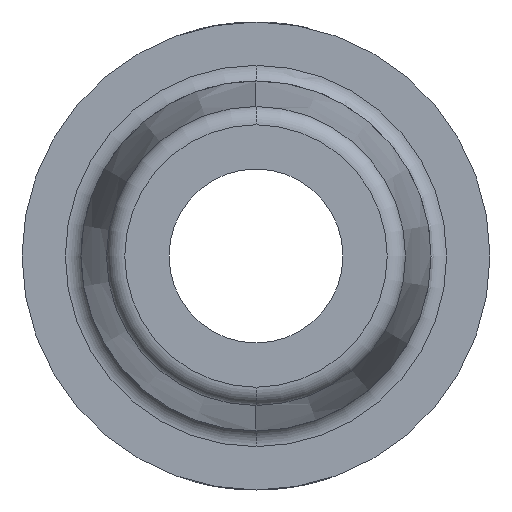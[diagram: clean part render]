
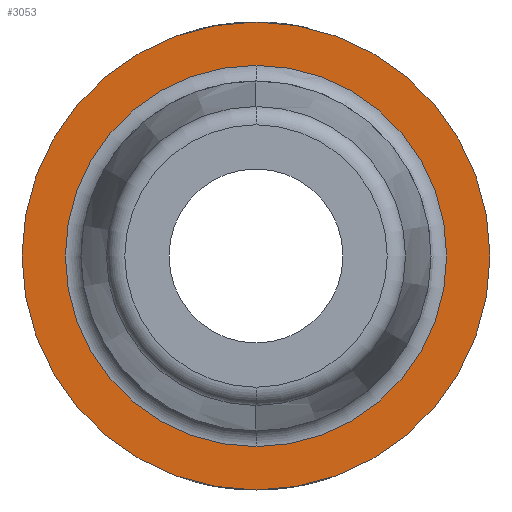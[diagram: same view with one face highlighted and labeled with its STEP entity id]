
A CAD part, left-side view. The second image highlights one B-rep face of the part: STEP entity #3053.
In plain terms, the highlighted planar face has unit normal (-1, 0, 0).
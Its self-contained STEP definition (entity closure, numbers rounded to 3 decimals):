
#61=FACE_BOUND('',#936,.T.);
#73=PLANE('',#3369);
#764=FACE_OUTER_BOUND('',#935,.T.);
#935=EDGE_LOOP('',(#2330,#2331));
#936=EDGE_LOOP('',(#2332,#2333));
#1092=CIRCLE('',#3220,2.587);
#1150=CIRCLE('',#3298,3.175);
#1185=CIRCLE('',#3335,3.175);
#1209=CIRCLE('',#3370,2.587);
#1251=VERTEX_POINT('',#4336);
#1252=VERTEX_POINT('',#4337);
#1357=VERTEX_POINT('',#4758);
#1358=VERTEX_POINT('',#4760);
#1575=EDGE_CURVE('',#1251,#1252,#1092,.T.);
#1687=EDGE_CURVE('',#1358,#1357,#1150,.T.);
#1759=EDGE_CURVE('',#1357,#1358,#1185,.T.);
#1820=EDGE_CURVE('',#1252,#1251,#1209,.T.);
#2330=ORIENTED_EDGE('',*,*,#1687,.T.);
#2331=ORIENTED_EDGE('',*,*,#1759,.T.);
#2332=ORIENTED_EDGE('',*,*,#1820,.T.);
#2333=ORIENTED_EDGE('',*,*,#1575,.T.);
#3053=ADVANCED_FACE('',(#764,#61),#73,.F.);
#3220=AXIS2_PLACEMENT_3D('',#4338,#3518,#3519);
#3298=AXIS2_PLACEMENT_3D('',#4761,#3709,#3710);
#3335=AXIS2_PLACEMENT_3D('',#5031,#3814,#3815);
#3369=AXIS2_PLACEMENT_3D('',#5557,#3894,#3895);
#3370=AXIS2_PLACEMENT_3D('',#5558,#3896,#3897);
#3518=DIRECTION('center_axis',(1.,0.,0.));
#3519=DIRECTION('ref_axis',(0.,0.,
1.));
#3709=DIRECTION('center_axis',(-1.,0.,0.));
#3710=DIRECTION('ref_axis',(0.,0.,1.));
#3814=DIRECTION('center_axis',(-1.,0.,0.));
#3815=DIRECTION('ref_axis',(0.,0.,
-1.));
#3894=DIRECTION('center_axis',(1.,0.,0.));
#3895=DIRECTION('ref_axis',(0.,0.,-1.));
#3896=DIRECTION('center_axis',(1.,0.,0.));
#3897=DIRECTION('ref_axis',(0.,0.,-1.));
#4336=CARTESIAN_POINT('',(-12.25,0.,2.587));
#4337=CARTESIAN_POINT('',(-12.25,0.,-2.587));
#4338=CARTESIAN_POINT('Origin',(-12.25,0.,0.));
#4758=CARTESIAN_POINT('',(-12.25,0.,-3.175));
#4760=CARTESIAN_POINT('',(-12.25,0.,3.175));
#4761=CARTESIAN_POINT('Origin',(-12.25,0.,0.));
#5031=CARTESIAN_POINT('Origin',(-12.25,0.,0.));
#5557=CARTESIAN_POINT('Origin',(-12.25,-3.213,0.));
#5558=CARTESIAN_POINT('Origin',(-12.25,0.,0.));
